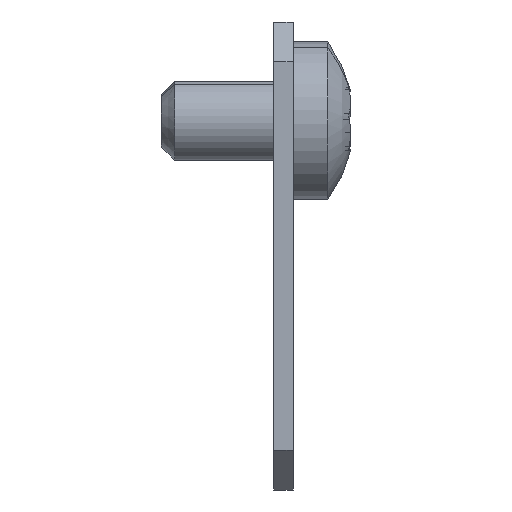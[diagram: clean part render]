
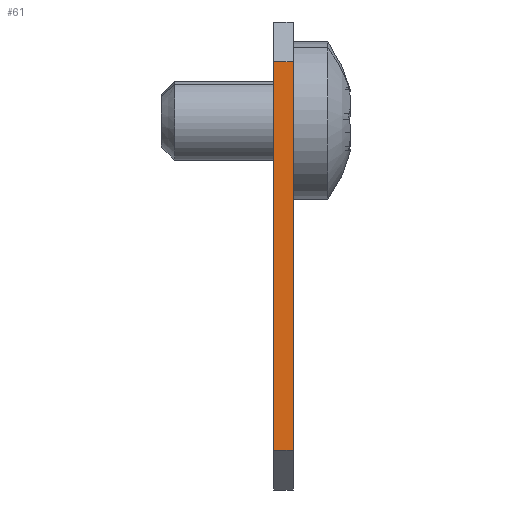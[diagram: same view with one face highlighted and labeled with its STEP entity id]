
A CAD part, front view. The second image highlights one B-rep face of the part: STEP entity #61.
In plain terms, the highlighted planar face has unit normal (0, -1, 0).
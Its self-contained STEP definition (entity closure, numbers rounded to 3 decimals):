
#5 = EDGE_CURVE ( 'NONE', #1408, #1213, #2267, .T. ) ;
#19 = CARTESIAN_POINT ( 'NONE',  ( 0.44, -146.986, 17.796 ) ) ;
#25 = LINE ( 'NONE', #898, #1206 ) ;
#61 = ADVANCED_FACE ( 'NONE', ( #1591 ), #2037, .T. ) ;
#152 = VECTOR ( 'NONE', #987, 1000. ) ;
#188 = EDGE_CURVE ( 'NONE', #2424, #1996, #1042, .T. ) ;
#398 = CARTESIAN_POINT ( 'NONE',  ( 0.44, -146.986, -14.704 ) ) ;
#480 = ORIENTED_EDGE ( 'NONE', *, *, #5, .T. ) ;
#674 = DIRECTION ( 'NONE',  ( 1., 0., 0. ) ) ;
#790 = EDGE_CURVE ( 'NONE', #1213, #1996, #2907, .T. ) ;
#814 = ORIENTED_EDGE ( 'NONE', *, *, #188, .F. ) ;
#827 = EDGE_LOOP ( 'NONE', ( #480, #2420, #814, #1674 ) ) ;
#850 = AXIS2_PLACEMENT_3D ( 'NONE', #19, #1853, #915 ) ;
#881 = EDGE_CURVE ( 'NONE', #2424, #1408, #25, .T. ) ;
#898 = CARTESIAN_POINT ( 'NONE',  ( 0.44, -146.986, 14.796 ) ) ;
#915 = DIRECTION ( 'NONE',  ( 0., 0., -1. ) ) ;
#923 = DIRECTION ( 'NONE',  ( -1., 0., 0. ) ) ;
#924 = CARTESIAN_POINT ( 'NONE',  ( 1.94, -146.986, -14.704 ) ) ;
#987 = DIRECTION ( 'NONE',  ( 0., 0., -1. ) ) ;
#1042 = LINE ( 'NONE', #1463, #152 ) ;
#1109 = CARTESIAN_POINT ( 'NONE',  ( 0.44, -146.986, 14.796 ) ) ;
#1206 = VECTOR ( 'NONE', #923, 1000. ) ;
#1213 = VERTEX_POINT ( 'NONE', #398 ) ;
#1408 = VERTEX_POINT ( 'NONE', #1109 ) ;
#1463 = CARTESIAN_POINT ( 'NONE',  ( 1.94, -146.986, 17.796 ) ) ;
#1569 = CARTESIAN_POINT ( 'NONE',  ( 0.44, -146.986, -14.704 ) ) ;
#1591 = FACE_OUTER_BOUND ( 'NONE', #827, .T. ) ;
#1674 = ORIENTED_EDGE ( 'NONE', *, *, #881, .T. ) ;
#1828 = CARTESIAN_POINT ( 'NONE',  ( 0.44, -146.986, 17.796 ) ) ;
#1853 = DIRECTION ( 'NONE',  ( 0., -1., 0. ) ) ;
#1996 = VERTEX_POINT ( 'NONE', #924 ) ;
#2037 = PLANE ( 'NONE',  #850 ) ;
#2078 = VECTOR ( 'NONE', #2536, 1000. ) ;
#2267 = LINE ( 'NONE', #1828, #2078 ) ;
#2420 = ORIENTED_EDGE ( 'NONE', *, *, #790, .T. ) ;
#2424 = VERTEX_POINT ( 'NONE', #2724 ) ;
#2536 = DIRECTION ( 'NONE',  ( 0., 0., -1. ) ) ;
#2724 = CARTESIAN_POINT ( 'NONE',  ( 1.94, -146.986, 14.796 ) ) ;
#2827 = VECTOR ( 'NONE', #674, 1000. ) ;
#2907 = LINE ( 'NONE', #1569, #2827 ) ;
